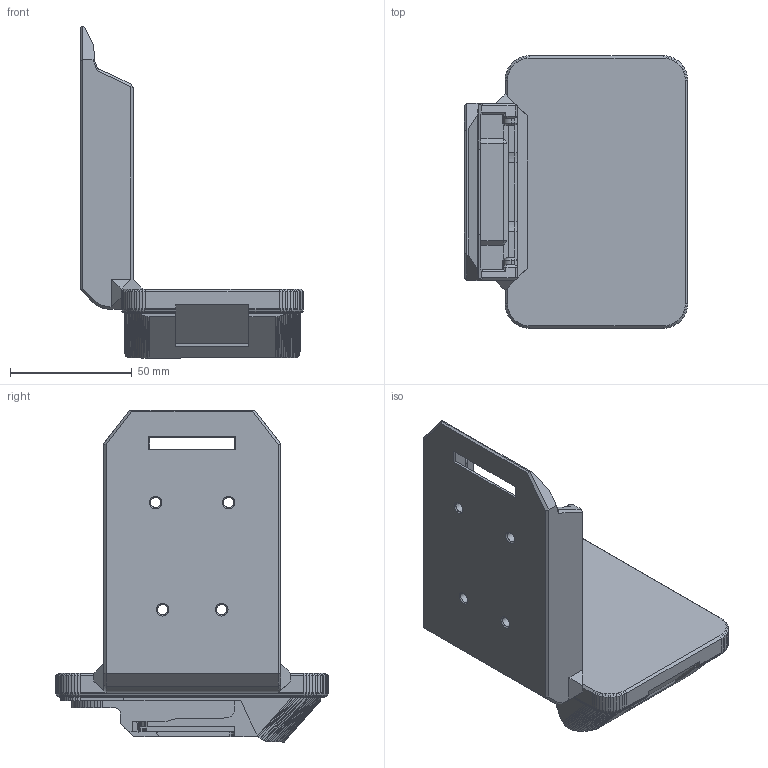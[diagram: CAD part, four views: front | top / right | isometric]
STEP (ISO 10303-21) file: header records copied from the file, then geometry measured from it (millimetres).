
FILE_DESCRIPTION(/* description */ (''),/* implementation_level */ '2;1');
FILE_NAME(/* name */ 'Makita Combo Holder (Experimental).step',/* time_stamp */ '2022-12-01T14:05:20+03:00',/* author */ (''),/* organization */ (''),/* preprocessor_version */ 'ST-DEVELOPER v19.2',/* originating_system */ 'Autodesk Translation Framework v11.17.0.187',/* authorisation */ '');
FILE_SCHEMA (('AUTOMOTIVE_DESIGN { 1 0 10303 214 3 1 1 }'));
Length unit declared in the file: millimetre
Products named in the file (2): Makita Combo Holder; Makita Combo Holder_1
Assembly tree (1 placements, depth 2):
  Makita Combo Holder
    Makita Combo Holder_1
Bounding box: 91.77 x 112 x 136.42 mm (x, y, z)
Volume: 249666.2 mm3; surface area: 50673.9 mm2
Topology: 1 solids, 3 shells, 1235 faces, 2511 edges, 1279 vertices
Faces by surface type: plane 1204, cone 18, cylinder 13
Full cylindrical faces by diameter (mm): 4.2 x4, 10 x2
Entity records: 30144 total; most frequent: CARTESIAN_POINT 5050, DIRECTION 5025, ORIENTED_EDGE 5018, EDGE_CURVE 2509, LINE 2461, VECTOR 2461, AXIS2_PLACEMENT_3D 1282, VERTEX_POINT 1279
